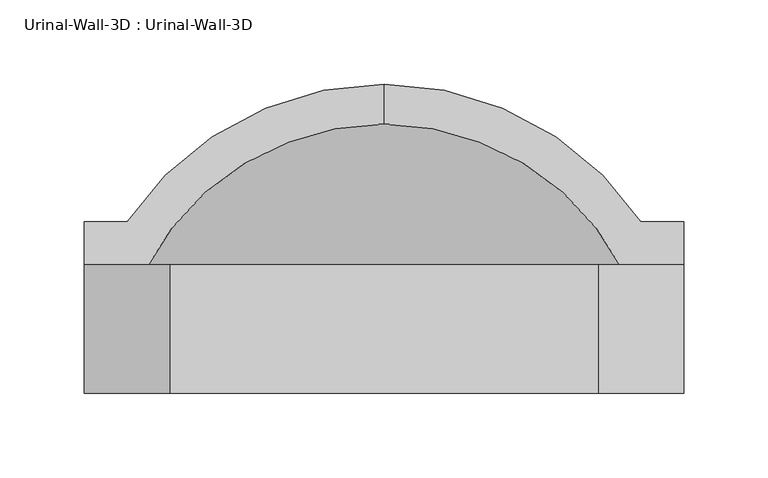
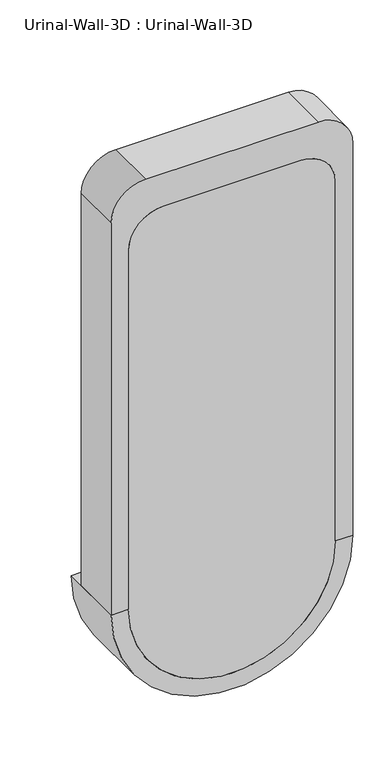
"""IFC4 building model written with IfcOpenShell, lengths in millimetres: flow terminal geometry, Urinal-Wall-3D : Urinal-Wall-3D."""

from ifc_helpers import new_model, si_unit, point, frame, frame_2d, origin, place, context, project, spatial, polyline, circle_curve, ellipse_curve, trimmed, segment, composite_curve, outline, extrude, source, transform, mapped, element, save
from ifc_brep_helpers import plane_surface, cylinder_surface, revolved_surface, advanced_brep


def urinal_wall_3d_urinal_wall_3d_7ec34c28(model_context):
    return source(origin(), model_context, "Body", "SolidModel", [
        extrude(outline(composite_curve([segment(polyline([(609.6, 43.3254001), (609.6, 68.7254001), (1219.2, 68.7254001)]), True, "CONTINUOUS"), segment(trimmed(circle_curve(frame_2d((1219.2, 17.9254001)), 50.8), [point((1219.2, 68.7254001))], [point((1270.0, 17.9254001))], False, "CARTESIAN"), True, "CONTINUOUS"), segment(polyline([(1270.0, 17.9254001), (1270.0, -236.0745999)]), True, "CONTINUOUS"), segment(trimmed(circle_curve(frame_2d((1219.2, -236.0745999)), 50.8), [point((1270.0, -236.0745999))], [point((1219.2, -286.8745999))], False, "CARTESIAN"), True, "CONTINUOUS"), segment(polyline([(1219.2, -286.8745999), (609.6, -286.8745999), (609.6, -261.4745999), (1168.4, -261.4745999)]), True, "CONTINUOUS"), segment(trimmed(circle_curve(frame_2d((1168.4, -210.6745999)), 50.8), [point((1168.4, -261.4745999))], [point((1219.2, -210.6745999))], True, "CARTESIAN"), True, "CONTINUOUS"), segment(polyline([(1219.2, -210.6745999), (1219.2, -7.4745999)]), True, "CONTINUOUS"), segment(trimmed(circle_curve(frame_2d((1168.4, -7.4745999)), 50.8), [point((1219.2, -7.4745999))], [point((1168.4, 43.3254001))], True, "CARTESIAN"), True, "CONTINUOUS"), segment(polyline([(1168.4, 43.3254001), (609.6, 43.3254001)]), True, "CONTINUOUS")], self_intersect=False)), frame((0.0, 130.175, 0.0), z_axis=(0.0, 1.0, 0.0), x_axis=(0.0, 0.0, 1.0)), (0.0, 0.0, 1.0), 76.2),
        extrude(outline(composite_curve([segment(trimmed(circle_curve(frame_2d((1168.4, -7.4745999)), 50.8), [point((1168.4, 43.3254001))], [point((1219.2, -7.4745999))], False, "CARTESIAN"), True, "CONTINUOUS"), segment(polyline([(1219.2, -7.4745999), (1219.2, -210.6745999)]), True, "CONTINUOUS"), segment(trimmed(circle_curve(frame_2d((1168.4, -210.6745999)), 50.8), [point((1219.2, -210.6745999))], [point((1168.4, -261.4745999))], False, "CARTESIAN"), True, "CONTINUOUS"), segment(polyline([(1168.4, -261.4745999), (609.6, -261.4745999)]), True, "CONTINUOUS"), segment(trimmed(circle_curve(frame_2d((609.6, -109.0745999)), 152.4), [point((609.6, -261.4745999))], [point((609.6, 43.3254001))], False, "CARTESIAN"), True, "CONTINUOUS"), segment(polyline([(609.6, 43.3254001), (1168.4, 43.3254001)]), True, "CONTINUOUS")], self_intersect=False)), frame((0.0, 130.175, 0.0), z_axis=(0.0, 1.0, 0.0), x_axis=(0.0, 0.0, 1.0)), (0.0, 0.0, 1.0), 12.7),
        advanced_brep(
        [(-109.0745999, 313.3370048, 609.6), (-109.0745999, 289.6197043, 609.6), (43.3254001, 177.0456063, 609.6), (43.3254001, 130.175, 609.6), (68.7254001, 130.175, 609.6), (68.7254001, 231.775, 609.6), (43.3254001, 231.775, 609.6), (-261.4745999, 231.775, 609.6), (-286.8745999, 231.775, 609.6), (-286.8745999, 130.175, 609.6), (-261.4745999, 130.175, 609.6), (-261.4745999, 177.0456063, 609.6)],
        [
            (0, 1),
            (1, 2, circle_curve(frame((-109.0745999, 130.175, 609.6), z_axis=(0.0, 0.0, -1.0), x_axis=(1.0, 0.0, 0.0)), 159.4447043)),
            (2, 3),
            (3, 4),
            (4, 5),
            (5, 6),
            (6, 0, circle_curve(frame((-109.0745999, 130.175, 609.6), z_axis=(0.0, 0.0, 1.0), x_axis=(1.0, 0.0, 0.0)), 183.1620048)),
            (0, 7, circle_curve(frame((-109.0745999, 130.175, 609.6), z_axis=(0.0, 0.0, 1.0), x_axis=(-1.0, 0.0, 0.0)), 183.1620048)),
            (7, 8),
            (8, 9),
            (9, 10),
            (10, 11),
            (11, 1, circle_curve(frame((-109.0745999, 130.175, 609.6), z_axis=(0.0, 0.0, -1.0), x_axis=(-1.0, 0.0, 0.0)), 159.4447043)),
            (11, 2, circle_curve(frame((-109.0745999, 177.0456063, 609.6), z_axis=(0.0, -1.0, 0.0), x_axis=(1.0, 0.0, 0.0)), 152.4)),
            (10, 3, circle_curve(frame((-109.0745999, 130.175, 609.6), z_axis=(0.0, -1.0, 0.0), x_axis=(1.0, 0.0, 0.0)), 152.4)),
            (9, 4, circle_curve(frame((-109.0745999, 130.175, 609.6), z_axis=(0.0, -1.0, 0.0), x_axis=(1.0, 0.0, 0.0)), 177.8)),
            (8, 5, circle_curve(frame((-109.0745999, 231.775, 609.6), z_axis=(0.0, -1.0, 0.0), x_axis=(1.0, 0.0, 0.0)), 177.8)),
            (7, 6, circle_curve(frame((-109.0745999, 231.775, 609.6), z_axis=(0.0, -1.0, 0.0), x_axis=(1.0, 0.0, 0.0)), 152.4)),
        ],
        [
            plane_surface(frame((-109.0745999, 419.3854173, 609.6), z_axis=(0.0, 0.0, 1.0), x_axis=(1.0, 0.0, 0.0))),
            plane_surface(frame((-109.0745999, 419.3854173, 609.6), z_axis=(0.0, 0.0, 1.0), x_axis=(-1.0, 0.0, 0.0))),
            revolved_surface(trimmed(ellipse_curve(frame((-109.0745999, 130.175, 609.6), z_axis=(0.0, 0.0, -1.0), x_axis=(1.0, 0.0, 0.0)), 159.4447043, 159.4447043), [point((-109.0745999, 289.6197043, 609.6))], [point((43.3254001, 177.0456063, 609.6))], True, "CARTESIAN"), (-109.0745999, 419.3854173, 609.6), (0.0, 1.0, 0.0)),
            revolved_surface(polyline([(43.32540010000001, 177.0456063, 609.6), (43.32540010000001, 130.175, 609.6)]), (-109.0745999, 419.3854173, 609.6), (0.0, 1.0, 0.0)),
            plane_surface(frame((-109.0745999, 130.175, 609.6), z_axis=(0.0, -1.0, 0.0), x_axis=(1.0, 0.0, 0.0))),
            cylinder_surface(frame((-109.0745999, 419.3854173, 609.6), z_axis=(0.0, 1.0, 0.0), x_axis=(1.0, 0.0, 0.0)), 177.8),
            plane_surface(frame((-109.0745999, 231.775, 609.6), z_axis=(0.0, 1.0, 0.0), x_axis=(1.0, 0.0, 0.0))),
            revolved_surface(trimmed(ellipse_curve(frame((-109.0745999, 130.175, 609.6), z_axis=(0.0, 0.0, 1.0), x_axis=(1.0, 0.0, 0.0)), 183.1620048, 183.1620048), [point((43.3254001, 231.775, 609.6))], [point((-109.0745999, 313.3370048, 609.6))], True, "CARTESIAN"), (-109.0745999, 419.3854173, 609.6), (0.0, 1.0, 0.0)),
        ],
        [
            (0, [[1, 2, 3, 4, 5, 6, 7]]),
            (1, [[8, 9, 10, 11, 12, 13, -1]]),
            (2, [[14, -2, -13]]),
            (3, [[15, -3, -14, -12]]),
            (4, [[16, -4, -15, -11]]),
            (5, [[17, -5, -16, -10]]),
            (6, [[18, -6, -17, -9]]),
            (7, [[-7, -18, -8]]),
        ],
    ),
    ])


if __name__ == "__main__":
    model = new_model("IFC4")
    model_context = context("Model", 3, world=origin())
    ifc_project = project(units=[si_unit("LENGTHUNIT", "METRE", prefix="MILLI")], contexts=[model_context])
    site = spatial("IfcSite", under=ifc_project)
    building = spatial("IfcBuilding", under=site)
    placement = place(None, origin())
    urinal_wall_3d_urinal_wall_3d_shape = urinal_wall_3d_urinal_wall_3d_7ec34c28(model_context)
    element("IfcFlowTerminal", 1, ObjectType="Urinal-Wall-3D : Urinal-Wall-3D", at=placement, inside=building, context=model_context, shape_type="MappedRepresentation", body=[
        mapped(urinal_wall_3d_urinal_wall_3d_shape, transform((0.0, 0.0, 0.0), x_axis=(1.0, 0.0, 0.0), y_axis=(0.0, 1.0, 0.0), z_axis=(0.0, 0.0, 1.0))),
    ])
    save(model, "model.ifc")
